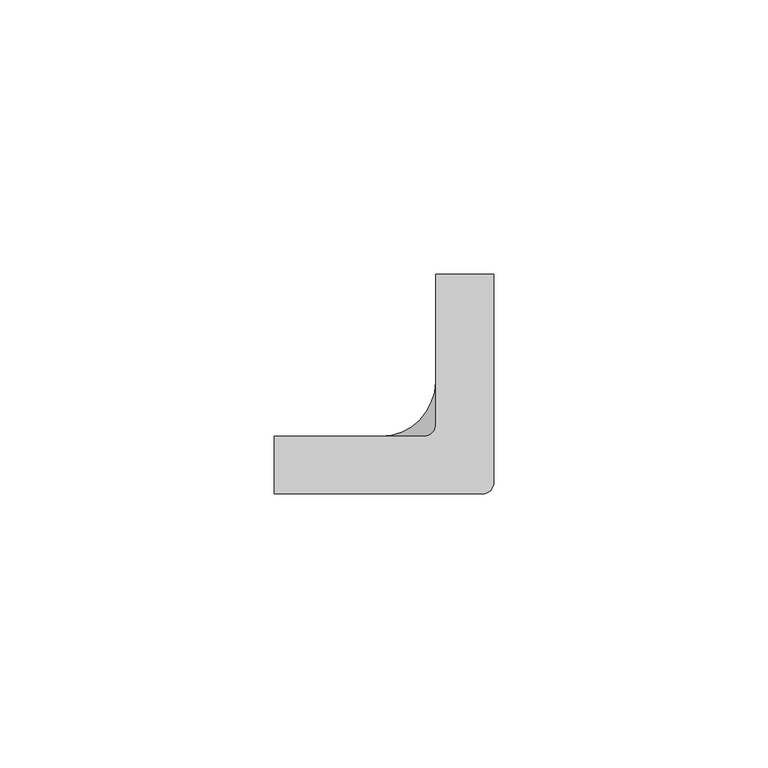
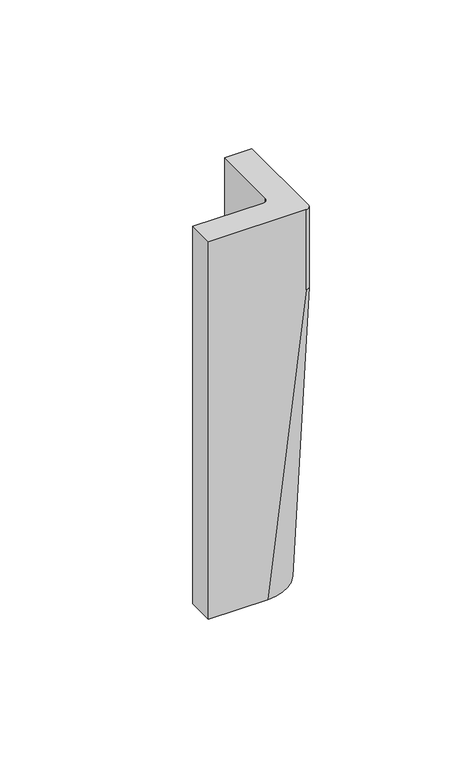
"""IFC4 building model written with IfcOpenShell, lengths in millimetres: proxy geometry, ROSA GRES_040A : Pieza 040A_Serena_Ocra_Anti-Slip."""

import ifcopenshell
import ifcopenshell.guid

model = None  # the IFC model being written
_history = None  # IfcOwnerHistory: only IFC2X3 demands one
_inside = {}  # id of a spatial element -> (the spatial element, [elements in it])
_under = {}  # id of a project, library or spatial element -> (it, [spatial elements below it])
_declared = {}  # id of a project -> (the project, [libraries it declares])
_typed = {}  # id of a type object -> (the type object, [elements of that type])
_made_of = {}  # id of a material, layer set ... -> (it, [elements and type objects made of it])


def new_model(schema):
    """Start an empty IFC model of exactly this schema.

    Asked for "IFC4X3", IfcOpenShell would pick the latest addendum, in which some entities
    have other attributes; the version numbers below select the first issue.
    IFC2X3 requires an IfcOwnerHistory on every rooted entity: one is made here for all.
    """
    global model, _history
    if schema == "IFC4X3":
        model = ifcopenshell.file(schema_version=(4, 3, 0, 0))
    else:
        model = ifcopenshell.file(schema=schema)
    _inside.clear()
    _under.clear()
    _declared.clear()
    _typed.clear()
    _made_of.clear()
    _history = None
    if model.schema == "IFC2X3":
        org = make("IfcOrganization", Name="unknown")
        user = make(
            "IfcPersonAndOrganization",
            ThePerson=make("IfcPerson", FamilyName="unknown"),
            TheOrganization=org,
        )
        app = make(
            "IfcApplication",
            ApplicationDeveloper=org,
            Version="unknown",
            ApplicationFullName="unknown",
            ApplicationIdentifier="unknown",
        )
        _history = make(
            "IfcOwnerHistory",
            OwningUser=user,
            OwningApplication=app,
            ChangeAction="ADDED",
            CreationDate=0,
        )
    return model


def make(cls, **values):
    """One entity of the class cls with the attributes given. An attribute that is None is left unset."""
    return model.create_entity(
        cls, **{name: value for name, value in values.items() if value is not None}
    )


def rooted(cls, **values):
    """An entity with a GlobalId (a new one), such as an element, a storey or a relation."""
    return make(cls, GlobalId=ifcopenshell.guid.new(), OwnerHistory=_history, **values)


def si_unit(unit_type, name, prefix=None):
    """IfcSIUnit, for example si_unit("LENGTHUNIT", "METRE", prefix="MILLI")."""
    return make("IfcSIUnit", UnitType=unit_type, Prefix=prefix, Name=name)


def assignment(units):
    """IfcUnitAssignment: the units of a project."""
    return None if units is None else make("IfcUnitAssignment", Units=units)


def point(xyz):
    """IfcCartesianPoint."""
    return None if xyz is None else make("IfcCartesianPoint", Coordinates=xyz)


def direction(xyz):
    """IfcDirection."""
    return None if xyz is None else make("IfcDirection", DirectionRatios=xyz)


def frame(location, z_axis=None, x_axis=None):
    """IfcAxis2Placement3D, a coordinate frame: its origin and axes. An axis left out is left unset."""
    return make(
        "IfcAxis2Placement3D",
        Location=point(location),
        Axis=direction(z_axis),
        RefDirection=direction(x_axis),
    )


def origin():
    """The frame at (0, 0, 0) with its axes left unset."""
    return frame((0.0, 0.0, 0.0))


def place(relative_to, where):
    """IfcLocalPlacement: puts the frame where relative to a parent placement (None: the world)."""
    return make(
        "IfcLocalPlacement", PlacementRelTo=relative_to, RelativePlacement=where
    )


def context(
    kind, dimensions, precision=None, world=None, true_north=None, identifier=None
):
    """IfcGeometricRepresentationContext, for example the 3D "Model" context."""
    return make(
        "IfcGeometricRepresentationContext",
        ContextIdentifier=identifier,
        ContextType=kind,
        CoordinateSpaceDimension=dimensions,
        Precision=precision,
        WorldCoordinateSystem=world,
        TrueNorth=true_north,
    )


def project(units=None, contexts=None):
    """IfcProject with its units and contexts."""
    return rooted(
        "IfcProject",
        Name="project",
        RepresentationContexts=contexts,
        UnitsInContext=assignment(units),
    )


def spatial(cls, under=None, at=None, **own):
    """A site, building, storey or space (cls), placed at a placement, below another one or the project."""
    s = rooted(cls, ObjectPlacement=at, **own)
    if under is not None:
        _under.setdefault(under.id(), (under, []))[1].append(s)
    return s


def polyline(points):
    """IfcPolyline through the points."""
    return make("IfcPolyline", Points=[point(p) for p in points])


def circle_curve(where, radius):
    """IfcCircle in the frame where."""
    return make("IfcCircle", Position=where, Radius=radius)


def shape(context_of_items, identifier, shape_type, items):
    """IfcShapeRepresentation: the items that make up one representation, for example the "Body"."""
    return make(
        "IfcShapeRepresentation",
        ContextOfItems=context_of_items,
        RepresentationIdentifier=identifier,
        RepresentationType=shape_type,
        Items=items,
    )


def source(mapping_origin, context_of_items, identifier, shape_type, items):
    """IfcRepresentationMap: a shape defined once, which mapped items show again and again."""
    return make(
        "IfcRepresentationMap",
        MappingOrigin=mapping_origin,
        MappedRepresentation=shape(context_of_items, identifier, shape_type, items),
    )


def transform(
    local_origin,
    x_axis=None,
    y_axis=None,
    z_axis=None,
    scale=None,
    scale2=None,
    scale3=None,
    uniform=True,
):
    """IfcCartesianTransformationOperator3D, or its non-uniform kind. x_axis, y_axis, z_axis: its Axis1, 2, 3."""
    if uniform:
        return make(
            "IfcCartesianTransformationOperator3D",
            Axis1=direction(x_axis),
            Axis2=direction(y_axis),
            LocalOrigin=point(local_origin),
            Scale=scale,
            Axis3=direction(z_axis),
        )
    return make(
        "IfcCartesianTransformationOperator3DnonUniform",
        Axis1=direction(x_axis),
        Axis2=direction(y_axis),
        LocalOrigin=point(local_origin),
        Scale=scale,
        Axis3=direction(z_axis),
        Scale2=scale2,
        Scale3=scale3,
    )


def mapped(mapping_source, mapping_target):
    """IfcMappedItem: shows the shape of a source again, moved by a transform."""
    return make(
        "IfcMappedItem", MappingSource=mapping_source, MappingTarget=mapping_target
    )


def made_of(thing, what):
    """Note that an element or type object is made of a material, layer set ...; save() writes the relation."""
    if what is not None:
        _made_of.setdefault(what.id(), (what, []))[1].append(thing)
    return thing


def element(
    cls,
    number,
    at=None,
    inside=None,
    cuts=None,
    type_object=None,
    material=None,
    context=None,
    identifier="Body",
    shape_type=None,
    held_by="IfcProductDefinitionShape",
    body=None,
    shapes=None,
    **own,
):
    """One element of the class cls, such as IfcWall. Its Tag is "e" and its number.

    at: its placement. inside: the storey or other place that contains it. cuts: it is an
    opening in that element (IfcRelVoidsElement). A single representation is given by context,
    identifier, shape_type and body (its items); several are given by shapes. held_by: the class
    of the entity that holds the representations. save() writes the other relations.
    """
    e = rooted(cls, Tag="e%d" % number, ObjectPlacement=at, **own)
    if body is not None:
        shapes = [shape(context, identifier, shape_type, body)]
    if shapes is not None:
        e.Representation = make(held_by, Representations=shapes)
    if inside is not None:
        _inside.setdefault(inside.id(), (inside, []))[1].append(e)
    if cuts is not None:
        rooted(
            "IfcRelVoidsElement", RelatingBuildingElement=cuts, RelatedOpeningElement=e
        )
    if type_object is not None:
        _typed.setdefault(type_object.id(), (type_object, []))[1].append(e)
    return made_of(e, material)


def aggregate(whole, parts):
    """IfcRelAggregates: a whole, such as a stair, and the parts it consists of."""
    return rooted("IfcRelAggregates", RelatingObject=whole, RelatedObjects=parts)


def save(model, path):
    """Write the relations noted so far, then the file.

    IfcRelAggregates (storeys below a building ...), IfcRelContainedInSpatialStructure (elements
    in a storey), IfcRelDefinesByType, IfcRelAssociatesMaterial and IfcRelDeclares: one each for
    every whole, place, type object, material and project.
    """
    for whole, parts in _under.values():
        aggregate(whole, parts)
    for where, things in _inside.values():
        rooted(
            "IfcRelContainedInSpatialStructure",
            RelatedElements=things,
            RelatingStructure=where,
        )
    for kind, things in _typed.values():
        rooted("IfcRelDefinesByType", RelatedObjects=things, RelatingType=kind)
    for what, things in _made_of.values():
        rooted("IfcRelAssociatesMaterial", RelatedObjects=things, RelatingMaterial=what)
    for by, libraries in _declared.values():
        rooted("IfcRelDeclares", RelatingContext=by, RelatedDefinitions=libraries)
    model.write(path)


def plane_surface(at):
    """IfcPlane: the flat surface through the origin of the frame at, square to its z axis."""
    return make("IfcPlane", Position=at)


def cylinder_surface(at, radius):
    """IfcCylindricalSurface: all points at the distance radius from the z axis of the frame at."""
    return make("IfcCylindricalSurface", Position=at, Radius=radius)


def revolved_surface(curve, axis_point, axis_direction):
    """IfcSurfaceOfRevolution: the curve turned about the line through axis_point along axis_direction."""
    return make(
        "IfcSurfaceOfRevolution",
        SweptCurve=make("IfcArbitraryOpenProfileDef", ProfileType="CURVE", Curve=curve),
        AxisPosition=make("IfcAxis1Placement", Location=point(axis_point), Axis=direction(axis_direction)),
    )


def spline_surface(u_degree, v_degree, points, u_multiplicities, v_multiplicities, u_knots, v_knots, weights=None):
    """IfcBSplineSurfaceWithKnots; with weights, IfcRationalBSplineSurfaceWithKnots. points: one row for each step in u."""
    own = dict(
        UDegree=u_degree,
        VDegree=v_degree,
        ControlPointsList=[[point(p) for p in row] for row in points],
        SurfaceForm="UNSPECIFIED",
        UClosed=False,
        VClosed=False,
        SelfIntersect=False,
        UMultiplicities=u_multiplicities,
        VMultiplicities=v_multiplicities,
        UKnots=u_knots,
        VKnots=v_knots,
        KnotSpec="UNSPECIFIED",
    )
    if weights is None:
        return make("IfcBSplineSurfaceWithKnots", **own)
    return make("IfcRationalBSplineSurfaceWithKnots", WeightsData=weights, **own)


def advanced_brep(points, edges, surfaces, faces):
    """IfcAdvancedBrep: a solid bounded by faces that lie on surfaces and meet in shared edges.

    An edge is (start, end): straight between two places in points (the first is 0);
    or (start, end, curve); or (start, end, curve, False) where it runs against its curve.
    A face is (place in surfaces, loops), or (place, loops, False) where it looks against
    its surface's normal. A loop lists edges by number (the first is 1), with a minus sign
    where the edge is run from its end to its start. The first loop is the outer one.
    """
    corners = [point(p) for p in points]
    vertices = [make("IfcVertexPoint", VertexGeometry=c) for c in corners]
    made = []
    for start, end, *more in edges:
        made.append(
            make(
                "IfcEdgeCurve",
                EdgeStart=vertices[start],
                EdgeEnd=vertices[end],
                EdgeGeometry=more[0] if more else make("IfcPolyline", Points=[corners[start], corners[end]]),
                SameSense=more[1] if len(more) > 1 else True,
            )
        )
    hull = []
    for where, loops, *sense in faces:
        bounds = []
        for j, loop in enumerate(loops):
            ring = [make("IfcOrientedEdge", EdgeElement=made[abs(k) - 1], Orientation=k > 0) for k in loop]
            bounds.append(
                make(
                    "IfcFaceOuterBound" if j == 0 else "IfcFaceBound",
                    Bound=make("IfcEdgeLoop", EdgeList=ring),
                    Orientation=True,
                )
            )
        hull.append(make("IfcAdvancedFace", Bounds=bounds, FaceSurface=surfaces[where], SameSense=sense[0] if sense else True))
    return make("IfcAdvancedBrep", Outer=make("IfcClosedShell", CfsFaces=hull))


def generic_models_0cd6d4ad(model_context):
    return source(origin(), model_context, "Body", "AdvancedBrep", [
        advanced_brep(
        [(-40.0650814, 10.5047871, 155.0), (-40.079289, 0.0, 155.0), (-2.0, 0.0, 155.0), (0.0, 2.0, 155.0), (0.0, 40.0735975, 155.0), (-10.6043336, 40.0344708, 155.0), (-10.6043336, 12.5047871, 155.0), (-12.6043336, 10.5047871, 155.0), (-12.6043336, 10.5047871, 122.0), (-20.6043336, 10.5047871, 0.0), (-40.0650814, 10.5047871, 0.0), (-10.6043336, 12.5047871, 122.0), (-10.6043336, 40.0344708, 0.0), (-10.6043336, 20.5047871, 0.0), (0.0, 40.0735975, 0.0), (0.0, 2.0, 122.0), (0.0, 17.0, 0.0), (-2.0, 0.0, 122.0), (-40.079289, 0.0, 0.0), (-17.0, 0.0, 0.0)],
        [
            (0, 1),
            (1, 2),
            (2, 3, circle_curve(frame((-2.0, 2.0, 155.0), z_axis=(0.0, 0.0, 1.0), x_axis=(1.0, 0.0, 0.0)), 2.0)),
            (3, 4),
            (4, 5),
            (5, 6),
            (6, 7, circle_curve(frame((-12.6043336, 12.5047871, 155.0), z_axis=(0.0, 0.0, -1.0), x_axis=(1.0, 0.0, 0.0)), 2.0)),
            (7, 0),
            (7, 8),
            (8, 9),
            (9, 10),
            (10, 0),
            (6, 11),
            (11, 8, circle_curve(frame((-12.6043336, 12.5047871, 122.0), z_axis=(0.0, 0.0, -1.0), x_axis=(1.0, 0.0, 0.0)), 2.0)),
            (5, 12),
            (12, 13),
            (13, 11),
            (4, 14),
            (14, 12),
            (3, 15),
            (15, 16),
            (16, 14),
            (2, 17),
            (17, 15, circle_curve(frame((-2.0, 2.0, 122.0), z_axis=(0.0, 0.0, 1.0), x_axis=(1.0, 0.0, 0.0)), 2.0)),
            (1, 18),
            (18, 19),
            (19, 17),
            (10, 18),
            (9, 13, circle_curve(frame((-20.6043336, 20.5047871, 0.0), z_axis=(0.0, 0.0, 1.0), x_axis=(1.0, 0.0, 0.0)), 10.0)),
            (16, 19, circle_curve(frame((-17.0, 17.0, 0.0), z_axis=(0.0, 0.0, -1.0), x_axis=(1.0, 0.0, 0.0)), 17.0)),
        ],
        [
            plane_surface(frame((-40.0650814, 10.5047871, 155.0), z_axis=(0.0, 0.0, 1.0), x_axis=(1.0, 0.0, 0.0))),
            plane_surface(frame((-40.0650814, 10.5047871, 155.0), z_axis=(0.0, 1.0, 0.0), x_axis=(0.0, 0.0, -1.0))),
            revolved_surface(polyline([(-10.6043336, 12.5047871, 122.0), (-10.6043336, 12.5047871, 155.0)]), (-12.6043336, 12.5047871, 122.0), (0.0, 0.0, -1.0)),
            plane_surface(frame((-10.6043336, 12.5047871, 155.0), z_axis=(-1.0, 0.0, 0.0), x_axis=(0.0, 0.0, -1.0))),
            plane_surface(frame((-10.6043336, 40.0344708, 155.0), z_axis=(-0.0036896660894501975, 0.9999931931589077, 0.0), x_axis=(0.0, 0.0, -1.0))),
            plane_surface(frame((0.0, 40.0735975, 155.0), z_axis=(1.0, 0.0, 0.0), x_axis=(0.0, 0.0, -1.0))),
            cylinder_surface(frame((-2.0, 2.0, 122.0), z_axis=(0.0, 0.0, 1.0), x_axis=(1.0, 0.0, 0.0)), 2.0),
            plane_surface(frame((-2.0, 0.0, 155.0), z_axis=(0.0, -1.0, 0.0), x_axis=(0.0, 0.0, -1.0))),
            plane_surface(frame((-40.079289, 0.0, 155.0), z_axis=(-0.9999990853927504, 0.0013524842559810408, 0.0), x_axis=(0.0, 0.0, -1.0))),
            plane_surface(frame((-17.3696714, 17.3278037, 0.0), z_axis=(0.0, 0.0, -1.0), x_axis=(0.0, 1.0, 0.0))),
            spline_surface(1, 2, [[(-2.0, 0.0, 122.0), (0.0, 0.0, 122.0), (0.0, 2.0, 122.0)], [(-17.0, 0.0, 0.0), (0.0, 0.0, 0.0), (0.0, 17.0, 0.0)]], [2, 2], [3, 3], [0.0, 1.0], [0.0, 1.0], weights=[[1.0, 0.7071067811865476, 1.0], [1.0, 0.7071067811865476, 1.0]]),
            spline_surface(1, 2, [[(-10.6043336, 12.5047871, 122.0), (-10.6043336, 10.5047871, 122.0), (-12.6043336, 10.5047871, 122.0)], [(-10.6043336, 20.5047871, 0.0), (-10.604333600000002, 10.504787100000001, 0.0), (-20.6043336, 10.5047871, 0.0)]], [2, 2], [3, 3], [0.0, 1.0], [0.0, 1.0], weights=[[1.0, 0.7071067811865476, 1.0], [1.0, 0.7071067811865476, 1.0]]),
        ],
        [
            (0, [[1, 2, 3, 4, 5, 6, 7, 8]]),
            (1, [[9, 10, 11, 12, -8]]),
            (2, [[13, 14, -9, -7]]),
            (3, [[15, 16, 17, -13, -6]]),
            (4, [[18, 19, -15, -5]]),
            (5, [[20, 21, 22, -18, -4]]),
            (6, [[23, 24, -20, -3]]),
            (7, [[25, 26, 27, -23, -2]]),
            (8, [[28, -25, -1, -12]]),
            (9, [[-28, -11, 29, -16, -19, -22, 30, -26]]),
            (10, [[-21, -24, -27, -30]]),
            (11, [[-10, -14, -17, -29]]),
        ],
    ),
    ])


if __name__ == "__main__":
    model = new_model("IFC4")
    model_context = context("Model", 3, world=origin())
    ifc_project = project(units=[si_unit("LENGTHUNIT", "METRE", prefix="MILLI")], contexts=[model_context])
    site = spatial("IfcSite", under=ifc_project)
    building = spatial("IfcBuilding", under=site)
    placement = place(None, origin())
    generic_models_shape = generic_models_0cd6d4ad(model_context)
    element("IfcBuildingElementProxy", 1, Name="ROSA GRES_040A : Pieza 040A_Serena_Ocra_Anti-Slip", ObjectType="ROSA GRES_040A : Pieza 040A_Serena_Ocra_Anti-Slip", at=placement, inside=building, context=model_context, shape_type="MappedRepresentation", body=[
        mapped(generic_models_shape, transform((0.0, 0.0, 0.0), x_axis=(1.0, 0.0, 0.0), y_axis=(0.0, 1.0, 0.0), z_axis=(0.0, 0.0, 1.0))),
    ])
    save(model, "model.ifc")
